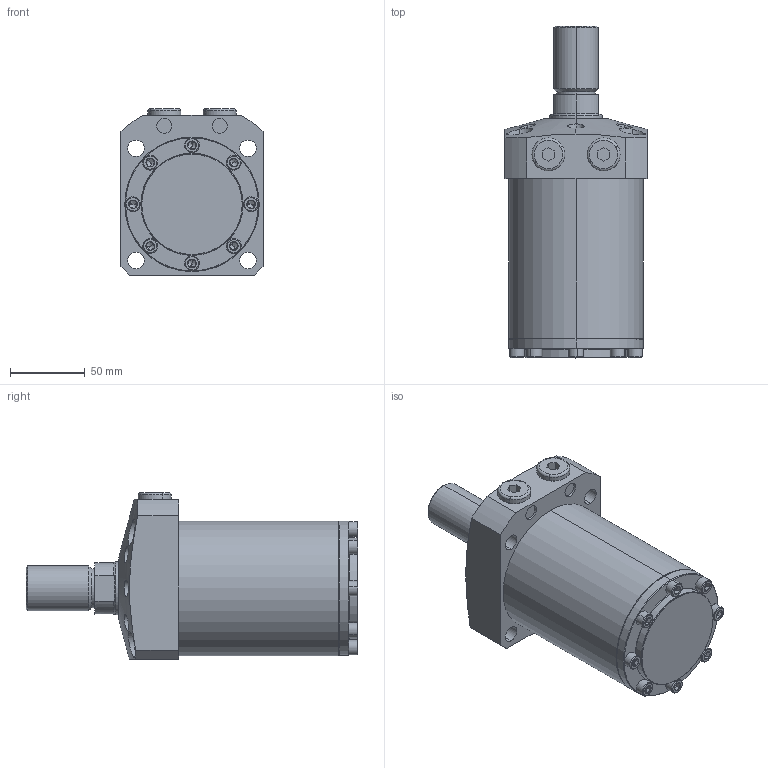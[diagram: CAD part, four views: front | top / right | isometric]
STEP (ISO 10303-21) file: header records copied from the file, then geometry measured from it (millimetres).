
FILE_DESCRIPTION (( 'STEP AP203' ), '1' );
FILE_NAME ('680900-CT-076.step', '2016-11-02T03:29:07', ( 'wxp' ), ( '' ), 'SwSTEP 2.0', 'SolidWorks 2011', '' );
FILE_SCHEMA (( 'CONFIG_CONTROL_DESIGN' ));
Length unit declared in the file: millimetre
Products named in the file (7): 680900-CT-076; 葩璃 680900-CA-15-11^680900-CT-076; 葩璃 68090-CA-76-6^680900-CT-076; 葩璃 68090-CA-76-5^680900-CT-076; 葩璃 68090-CA-76-4^680900-CT-076; 葩璃 68090-CA-76-3^680900-CT-076; 葩璃 68090-CA-76-1^680900-CT-076
Assembly tree (21 placements, depth 2):
  680900-CT-076
    葩璃 68090-CA-76-5^680900-CT-076  x8
    葩璃 68090-CA-76-4^680900-CT-076  x8
    葩璃 68090-CA-76-6^680900-CT-076  x2
    葩璃 680900-CA-15-11^680900-CT-076
    葩璃 68090-CA-76-3^680900-CT-076
    葩璃 68090-CA-76-1^680900-CT-076
Bounding box: 95 x 222 x 111.5 mm (x, y, z)
Volume: 1130888.8 mm3; surface area: 130035.9 mm2
Topology: 21 solids, 21 shells, 682 faces, 1274 edges, 657 vertices
Faces by surface type: plane 297, cone 216, cylinder 153, torus 16
Entity records: 8192 total; most frequent: CARTESIAN_POINT 2149, DIRECTION 1131, ORIENTED_EDGE 920, AXIS2_PLACEMENT_3D 473, EDGE_CURVE 460, VERTEX_POINT 275, EDGE_LOOP 271, CIRCLE 227
